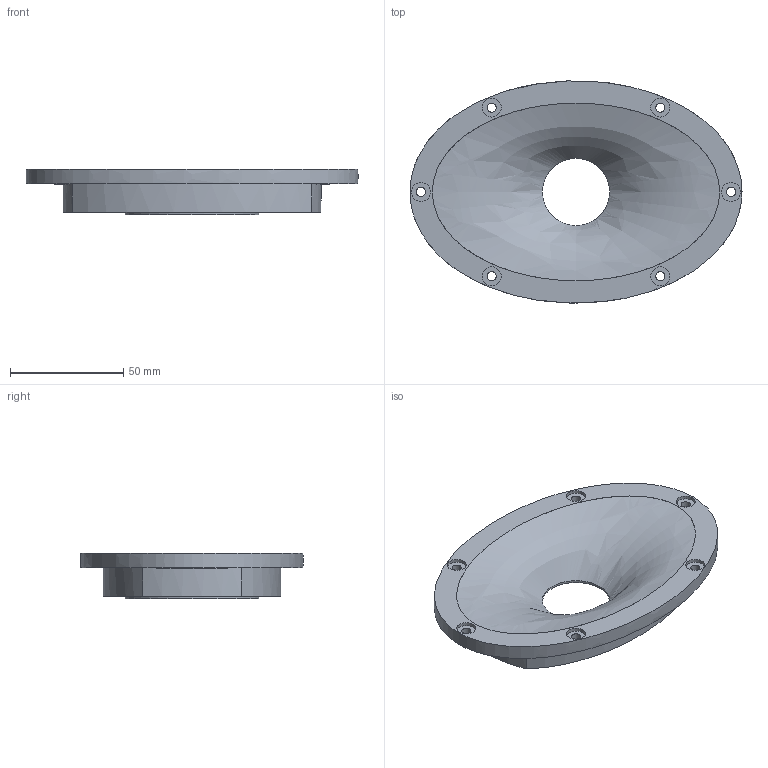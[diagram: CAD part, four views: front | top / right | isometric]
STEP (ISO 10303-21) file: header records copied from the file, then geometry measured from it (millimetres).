
FILE_DESCRIPTION(/* description */ (''),/* implementation_level */ '2;1');
FILE_NAME(/* name */ 'C:/Users/Admin/Desktop/templates/SS19/5/5 vA.step',/* time_stamp */ '2022-06-07T19:33:58-06:00',/* author */ (''),/* organization */ (''),/* preprocessor_version */ 'ST-DEVELOPER v19',/* originating_system */ 'Autodesk Translation Framework v11.7.0.108',/* authorisation */ '');
FILE_SCHEMA (('AUTOMOTIVE_DESIGN { 1 0 10303 214 3 1 1 }'));
Length unit declared in the file: inch
Products named in the file (1): 5x.75 A SS19
Bounding box: 146.81 x 98.25 x 20.07 mm (x, y, z)
Volume: 120534.6 mm3; surface area: 30411 mm2
Topology: 1 solids, 1 shells, 278 faces, 697 edges, 445 vertices
Faces by surface type: bspline 176, plane 82, cylinder 19, cone 1
Full cylindrical faces by diameter (mm): 3.302 x2, 4.064 x6, 8.382 x6, 29.718 x1, 55.88 x1, 59.182 x1
Entity records: 12000 total; most frequent: CARTESIAN_POINT 6420, ORIENTED_EDGE 1394, EDGE_CURVE 697, DIRECTION 646, VERTEX_POINT 445, B_SPLINE_CURVE_WITH_KNOTS 324, EDGE_LOOP 316, LINE 306
